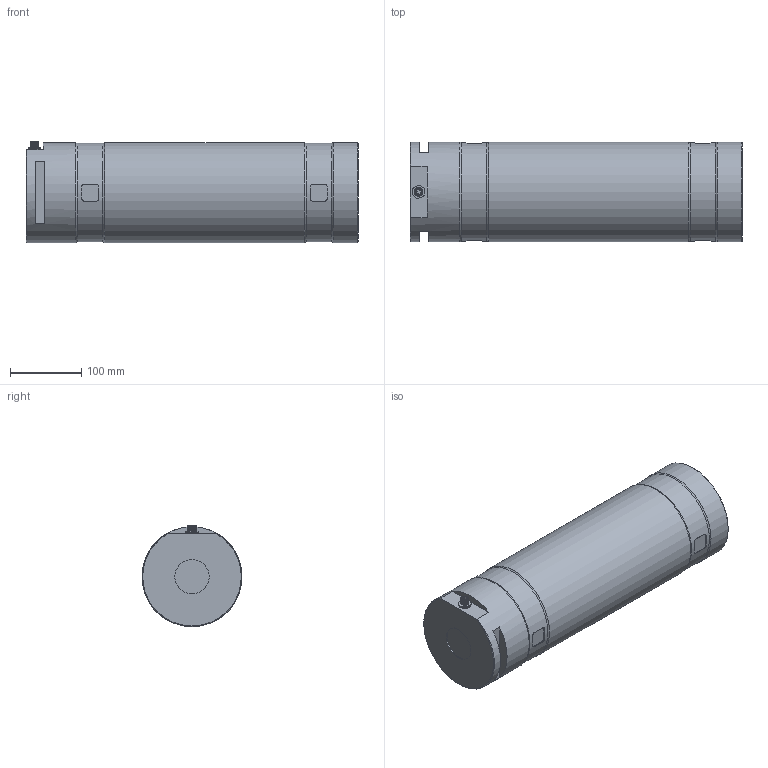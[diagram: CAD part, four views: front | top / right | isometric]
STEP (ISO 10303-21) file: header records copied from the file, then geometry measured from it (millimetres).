
FILE_DESCRIPTION(/* description */ ('Alibre Inc.'),/* implementation_level */ '2;1');
FILE_NAME(/* name */ 'export0',/* time_stamp */ '2011-08-31T16:16:20+02:00',/* author */ (''),/* organization */ (''),/* preprocessor_version */ 'ST-DEVELOPER v10',/* originating_system */ 'Alibre',/* authorisation */ '');
FILE_SCHEMA (('CONFIG_CONTROL_DESIGN'));
Length unit declared in the file: centimetre
Products named in the file (6): ID_1
Bounding box: 465 x 140 x 141.94 mm (x, y, z)
Volume: 7082550.8 mm3; surface area: 243525.6 mm2
Topology: 8 solids, 8 shells, 164 faces, 364 edges, 228 vertices
Faces by surface type: plane 73, cylinder 57, bspline 23, cone 6, torus 5
Full cylindrical faces by diameter (mm): 0.5 x8, 7.4 x1, 8 x2, 10 x3, 10.376 x1, 11.5 x1, 13 x1, 48 x1, 138 x2, 140 x3
Entity records: 14733 total; most frequent: CARTESIAN_POINT 11156, ORIENTED_EDGE 644, DIRECTION 467, EDGE_CURVE 317, FACE_BOUND 217, EDGE_LOOP 216, VERTEX_POINT 215, AXIS2_PLACEMENT_3D 209
